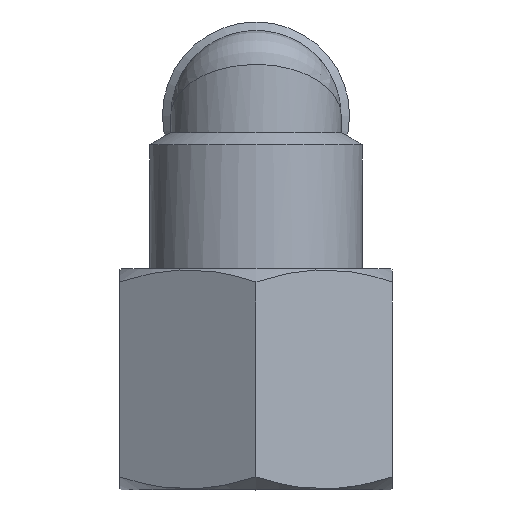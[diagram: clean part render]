
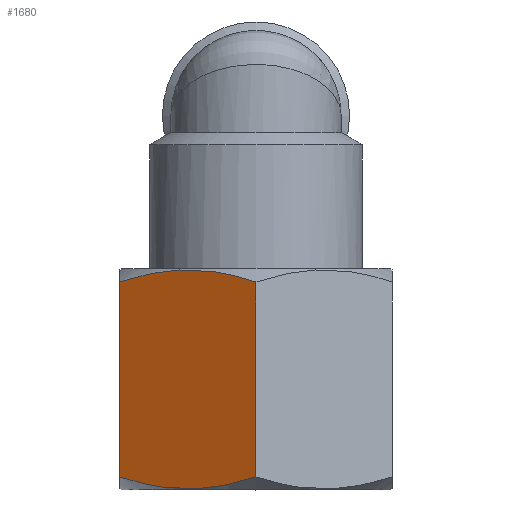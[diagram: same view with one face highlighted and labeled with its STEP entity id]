
A CAD part, left-side view. The second image highlights one B-rep face of the part: STEP entity #1680.
In plain terms, the highlighted planar face has unit normal (-0.866, 0.5, 0).
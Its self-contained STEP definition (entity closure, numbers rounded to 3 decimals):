
#1680=ADVANCED_FACE('', (#1690), #1700, .T.);
#5800=AXIS2_PLACEMENT_3D('Ax2Pl3d', #5810, #5820, #5830);
#18110=(B_SPLINE_CURVE(2, (#18120,#18130,#18140), .UNSPECIFIED., .F., 
.F.) B_SPLINE_CURVE_WITH_KNOTS((3,3), (0.,1.), .UNSPECIFIED.) 
BOUNDED_CURVE() CURVE() GEOMETRIC_REPRESENTATION_ITEM() 
RATIONAL_B_SPLINE_CURVE((1.,1.155,1.)) REPRESENTATION_ITEM(
'Nurb'));
#18310=(B_SPLINE_CURVE(2, (#18320,#18330,#18340), .UNSPECIFIED., .F., 
.F.) B_SPLINE_CURVE_WITH_KNOTS((3,3), (0.,1.), .UNSPECIFIED.) 
BOUNDED_CURVE() CURVE() GEOMETRIC_REPRESENTATION_ITEM() 
RATIONAL_B_SPLINE_CURVE((1.,1.155,1.)) REPRESENTATION_ITEM(
'Nurb'));
#20000=CARTESIAN_POINT('', (4.516,11.921,4.404))
;
#18120=CARTESIAN_POINT('', (9.135,19.921,4.404));
#18130=CARTESIAN_POINT('', (6.825,15.921,3.071));
#18140=CARTESIAN_POINT('', (4.516,11.921,4.404))
;
#20020=CARTESIAN_POINT('', (9.135,19.921,4.404));
#5810=CARTESIAN_POINT('HicPkt', (9.135,19.921,
3.627));
#20060=CARTESIAN_POINT('', (9.135,19.921,15.86));
#20070=CARTESIAN_POINT('', (9.135,19.921,15.86));
#20080=CARTESIAN_POINT('', (4.516,11.921,15.86));
#20090=CARTESIAN_POINT('', (4.516,11.921,15.86));
#18320=CARTESIAN_POINT('', (4.516,11.921,15.86));
#18330=CARTESIAN_POINT('', (6.825,15.921,17.193));
#18340=CARTESIAN_POINT('', (9.135,19.921,15.86));
#5820=DIRECTION('Axis', (-0.866,0.5,
0.));
#5830=DIRECTION('RefDirection', (0.,
0.,-1.));
#23260=DIRECTION('', (0.,0.,1.));
#23270=DIRECTION('', (0.,0.,1.));
#24260=EDGE_CURVE('', #24270, #24240, #18110, .T.);
#24350=EDGE_CURVE('', #24270, #24360, #24370, .T.);
#24380=EDGE_CURVE('', #24240, #24390, #24400, .T.);
#24410=EDGE_CURVE('', #24390, #24360, #18310, .T.);
#26570=EDGE_LOOP('Edge_loop', (#26580,#26590,#26600,#26610));
#1690=FACE_OUTER_BOUND('Face_outer_bound', #26570, .T.);
#24370=LINE('Line', #20060, #28140);
#24400=LINE('Line', #20080, #28150);
#26580=ORIENTED_EDGE('', *, *, #24350, .F.);
#26590=ORIENTED_EDGE('', *, *, #24260, .T.);
#26600=ORIENTED_EDGE('', *, *, #24380, .T.);
#26610=ORIENTED_EDGE('', *, *, #24410, .T.);
#1700=PLANE('Plane', #5800);
#28140=VECTOR('', #23260, 11.455);
#28150=VECTOR('', #23270, 11.455);
#24240=VERTEX_POINT('', #20000);
#24270=VERTEX_POINT('', #20020);
#24360=VERTEX_POINT('', #20070);
#24390=VERTEX_POINT('', #20090);
